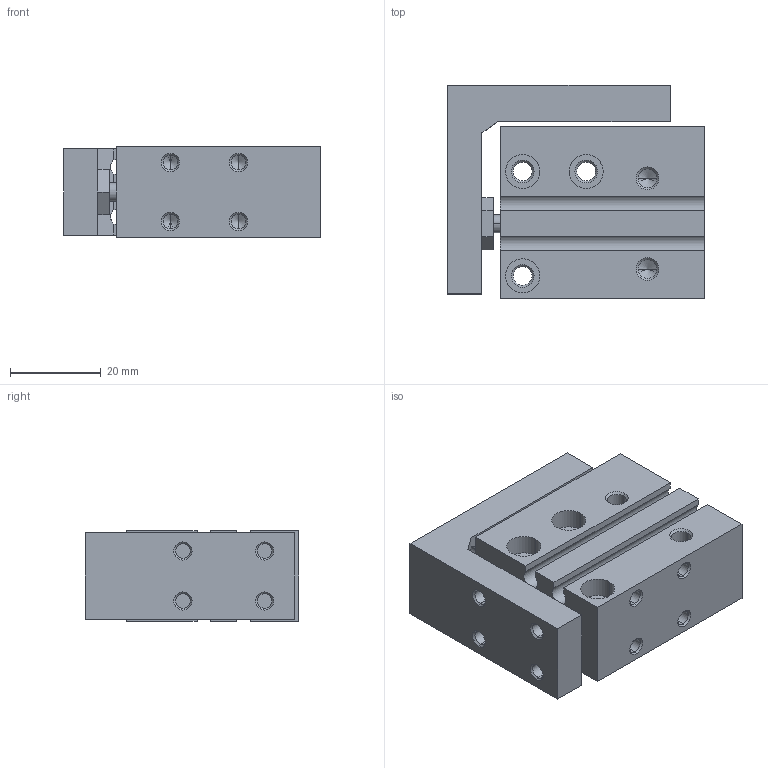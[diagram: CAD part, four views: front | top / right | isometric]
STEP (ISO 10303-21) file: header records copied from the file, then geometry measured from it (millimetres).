
FILE_DESCRIPTION (( 'STEP AP203' ), '1' );
FILE_NAME ('CXH10-10.STEP', '2020-04-16T18:05:54', ( '' ), ( '' ), 'SwSTEP 2.0', 'SolidWorks 2019', '' );
FILE_SCHEMA (( 'CONFIG_CONTROL_DESIGN' ));
Length unit declared in the file: millimetre
Products named in the file (1): CXH10-10
Bounding box: 56.5 x 47 x 20 mm (x, y, z)
Volume: 40617.9 mm3; surface area: 17401.2 mm2
Topology: 2 solids, 2 shells, 208 faces, 495 edges, 286 vertices
Faces by surface type: cone 88, cylinder 76, plane 44
Entity records: 5972 total; most frequent: DIRECTION 1093, CARTESIAN_POINT 1048, ORIENTED_EDGE 934, EDGE_CURVE 467, AXIS2_PLACEMENT_3D 421, VERTEX_POINT 286, EDGE_LOOP 253, LINE 251
